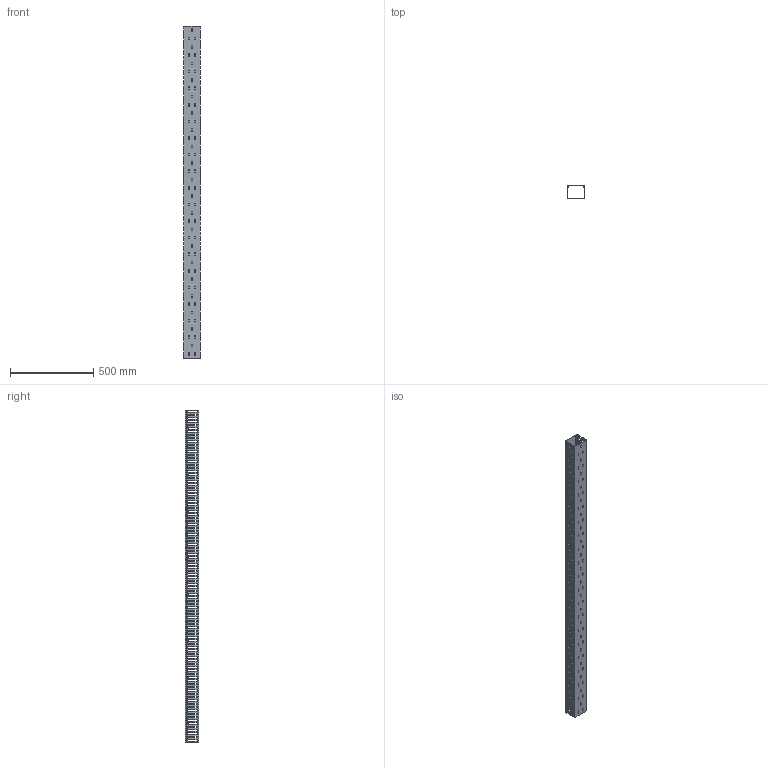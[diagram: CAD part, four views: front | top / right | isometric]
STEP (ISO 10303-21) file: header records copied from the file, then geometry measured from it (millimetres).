
FILE_DESCRIPTION (( 'STEP AP214' ), '1' );
FILE_NAME ('KD-108-20-H.STEP', '2020-02-19T01:19:05', ( '' ), ( '' ), 'SwSTEP 2.0', 'SolidWorks 2018', '' );
FILE_SCHEMA (( 'AUTOMOTIVE_DESIGN' ));
Length unit declared in the file: millimetre
Products named in the file (3): KD-108-20-H; KD-108-20-H-body; KD-106-20-cover
Assembly tree (2 placements, depth 2):
  KD-108-20-H
    KD-108-20-H-body
    KD-106-20-cover
Bounding box: 100 x 80.17 x 2000 mm (x, y, z)
Volume: 1110750.2 mm3; surface area: 1403135.1 mm2
Topology: 2 solids, 2 shells, 1971 faces, 5901 edges, 3934 vertices
Faces by surface type: cylinder 1021, plane 950
Entity records: 68147 total; most frequent: DIRECTION 11895, CARTESIAN_POINT 11811, ORIENTED_EDGE 11802, EDGE_CURVE 5901, AXIS2_PLACEMENT_3D 4018, VERTEX_POINT 3934, VECTOR 3859, LINE 3859
